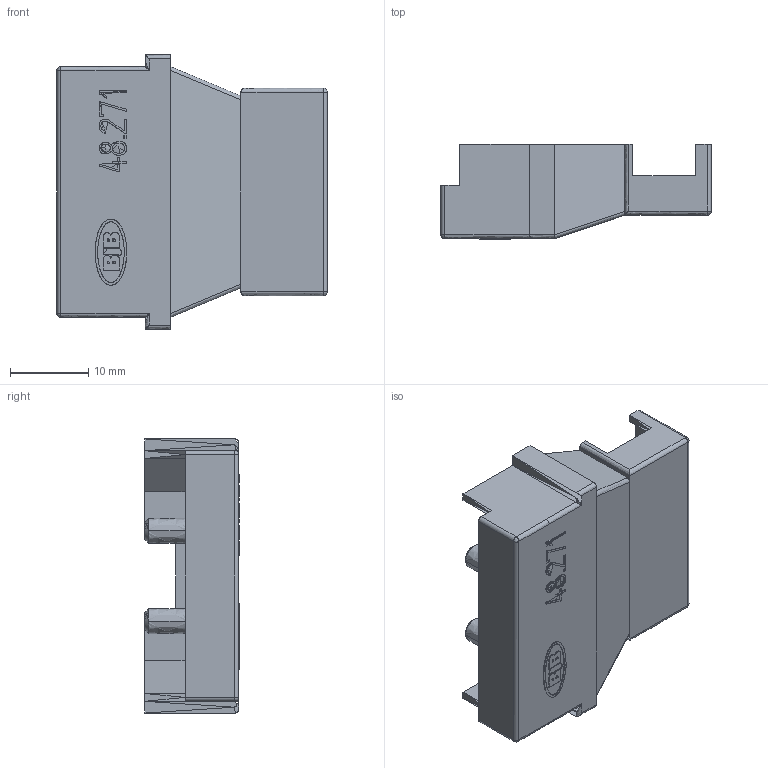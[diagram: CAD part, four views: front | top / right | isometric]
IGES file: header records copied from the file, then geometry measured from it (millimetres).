
Global section: file name: C:\Programme\core_technologie\in\009YE03Y02.igs; native system: CT CoreTechnologie 3D Evolution; preprocessor: 2006; author: assmuth; date: 100302.115702; units: millimetre
Bounding box: 34.5 x 12.1 x 35 mm (x, y, z)
Surface area: 4332.3 mm2 (no closed solid volume)
Topology: 0 solids, 0 shells, 192 faces, 935 edges, 914 vertices
Faces by surface type: bspline 192
